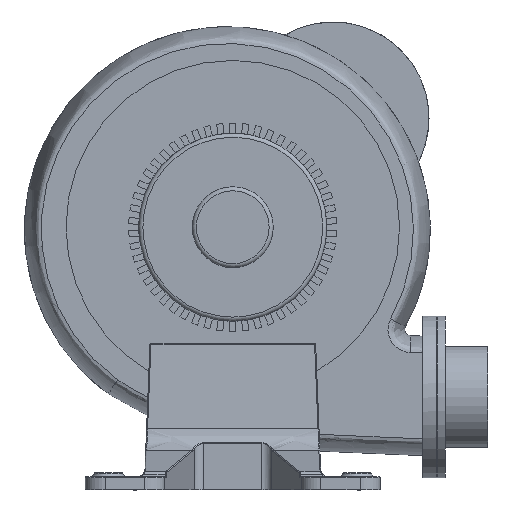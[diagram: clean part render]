
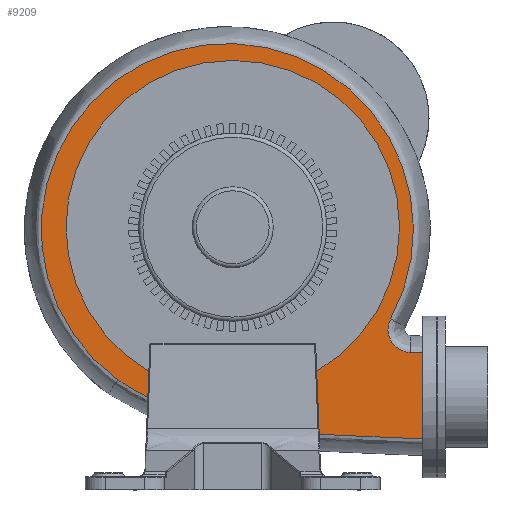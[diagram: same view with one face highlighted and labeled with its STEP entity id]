
A CAD part, left-side view. The second image highlights one B-rep face of the part: STEP entity #9209.
In plain terms, the highlighted planar face has unit normal (-1, 0, 0).
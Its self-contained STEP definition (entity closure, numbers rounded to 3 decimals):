
#69=CIRCLE('',#9606,82.5);
#70=CIRCLE('',#9607,6134.513);
#71=CIRCLE('',#9608,11.337);
#72=CIRCLE('',#9609,92.048);
#73=CIRCLE('',#9610,168.08);
#356=PLANE('',#9605);
#800=ORIENTED_EDGE('',*,*,#2779,.F.);
#801=ORIENTED_EDGE('',*,*,#2740,.T.);
#802=ORIENTED_EDGE('',*,*,#2780,.F.);
#803=ORIENTED_EDGE('',*,*,#2781,.T.);
#804=ORIENTED_EDGE('',*,*,#2782,.T.);
#805=ORIENTED_EDGE('',*,*,#2783,.T.);
#806=ORIENTED_EDGE('',*,*,#2784,.T.);
#807=ORIENTED_EDGE('',*,*,#2785,.T.);
#808=ORIENTED_EDGE('',*,*,#2786,.F.);
#809=ORIENTED_EDGE('',*,*,#2787,.F.);
#810=ORIENTED_EDGE('',*,*,#2767,.T.);
#2740=EDGE_CURVE('',#3731,#3730,#4374,.T.);
#2767=EDGE_CURVE('',#3755,#3754,#4390,.T.);
#2779=EDGE_CURVE('',#3731,#3754,#69,.T.);
#2780=EDGE_CURVE('',#3764,#3730,#70,.T.);
#2781=EDGE_CURVE('',#3764,#3765,#4395,.T.);
#2782=EDGE_CURVE('',#3765,#3766,#4396,.T.);
#2783=EDGE_CURVE('',#3766,#3767,#4397,.T.);
#2784=EDGE_CURVE('',#3767,#3768,#4398,.T.);
#2785=EDGE_CURVE('',#3768,#3769,#71,.T.);
#2786=EDGE_CURVE('',#3770,#3769,#72,.T.);
#2787=EDGE_CURVE('',#3755,#3770,#73,.T.);
#3730=VERTEX_POINT('',#12382);
#3731=VERTEX_POINT('',#12384);
#3754=VERTEX_POINT('',#12469);
#3755=VERTEX_POINT('',#12471);
#3764=VERTEX_POINT('',#12517);
#3765=VERTEX_POINT('',#12519);
#3766=VERTEX_POINT('',#12521);
#3767=VERTEX_POINT('',#12523);
#3768=VERTEX_POINT('',#12525);
#3769=VERTEX_POINT('',#12527);
#3770=VERTEX_POINT('',#12529);
#4374=LINE('',#12383,#4996);
#4390=LINE('',#12470,#5012);
#4395=LINE('',#12518,#5017);
#4396=LINE('',#12520,#5018);
#4397=LINE('',#12522,#5019);
#4398=LINE('',#12524,#5020);
#4996=VECTOR('',#10268,1000.);
#5012=VECTOR('',#10296,1000.);
#5017=VECTOR('',#10319,1000.);
#5018=VECTOR('',#10320,1000.);
#5019=VECTOR('',#10321,1000.);
#5020=VECTOR('',#10322,1000.);
#5609=EDGE_LOOP('',(#800,#801,#802,#803,#804,#805,#806,#807,#808,#809,#810));
#6051=FACE_BOUND('',#5609,.T.);
#9209=ADVANCED_FACE('',(#6051),#356,.T.);
#9605=AXIS2_PLACEMENT_3D('',#12514,#10313,#10314);
#9606=AXIS2_PLACEMENT_3D('',#12515,#10315,#10316);
#9607=AXIS2_PLACEMENT_3D('',#12516,#10317,#10318);
#9608=AXIS2_PLACEMENT_3D('',#12526,#10323,#10324);
#9609=AXIS2_PLACEMENT_3D('',#12528,#10325,#10326);
#9610=AXIS2_PLACEMENT_3D('',#12530,#10327,#10328);
#10268=DIRECTION('',(0.,-0.04,-0.999));
#10296=DIRECTION('',(0.,-0.04,0.999));
#10313=DIRECTION('',(-1.,0.,0.));
#10314=DIRECTION('',(0.,0.,1.));
#10315=DIRECTION('',(-1.,0.,0.));
#10316=DIRECTION('',(0.,0.,1.));
#10317=DIRECTION('',(1.,0.,0.));
#10318=DIRECTION('',(0.,0.039,-0.999));
#10319=DIRECTION('',(0.,0.,1.));
#10320=DIRECTION('',(0.,0.,1.));
#10321=DIRECTION('',(0.,0.,1.));
#10322=DIRECTION('',(0.,0.999,0.044));
#10323=DIRECTION('',(1.,0.,0.));
#10324=DIRECTION('',(0.,0.024,-1.));
#10325=DIRECTION('',(1.,0.,0.));
#10326=DIRECTION('',(0.,0.589,-0.808));
#10327=DIRECTION('',(1.,0.,0.));
#10328=DIRECTION('',(0.,-0.007,-1.));
#12382=CARTESIAN_POINT('',(-30.195,-42.749,-18.452));
#12383=CARTESIAN_POINT('',(-30.195,-34.948,177.889));
#12384=CARTESIAN_POINT('',(-30.195,-41.511,12.704));
#12469=CARTESIAN_POINT('',(-30.195,41.511,12.704));
#12470=CARTESIAN_POINT('',(-30.195,34.948,177.889));
#12471=CARTESIAN_POINT('',(-30.195,42.018,-0.064));
#12514=CARTESIAN_POINT('',(-30.195,0.,176.5));
#12515=CARTESIAN_POINT('',(-30.195,0.,84.));
#12516=CARTESIAN_POINT('',(-30.195,-333.188,6109.182));
#12517=CARTESIAN_POINT('',(-30.195,-93.948,-20.664));
#12518=CARTESIAN_POINT('',(-30.195,-93.948,176.5));
#12519=CARTESIAN_POINT('',(-30.195,-93.948,15.074));
#12520=CARTESIAN_POINT('',(-30.195,-93.948,176.5));
#12521=CARTESIAN_POINT('',(-30.195,-93.948,18.926));
#12522=CARTESIAN_POINT('',(-30.195,-93.948,176.5));
#12523=CARTESIAN_POINT('',(-30.195,-93.948,21.777));
#12524=CARTESIAN_POINT('',(-30.195,-93.806,21.784));
#12525=CARTESIAN_POINT('',(-30.195,-87.825,22.047));
#12526=CARTESIAN_POINT('',(-30.195,-88.099,33.38));
#12527=CARTESIAN_POINT('',(-30.195,-78.038,38.604));
#12528=CARTESIAN_POINT('',(-30.195,2.696,82.819));
#12529=CARTESIAN_POINT('',(-30.195,56.967,8.471));
#12530=CARTESIAN_POINT('',(-30.195,-33.74,149.975));
